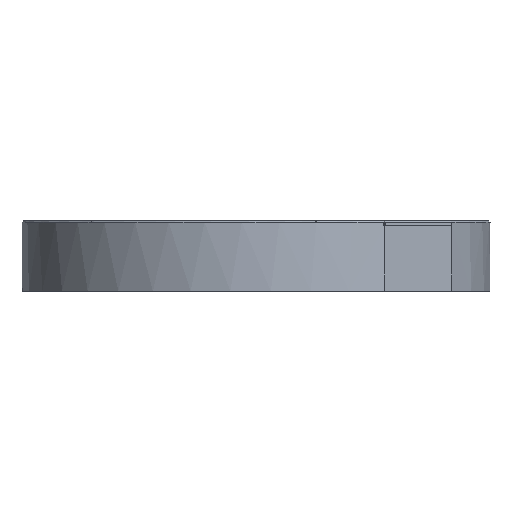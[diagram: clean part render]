
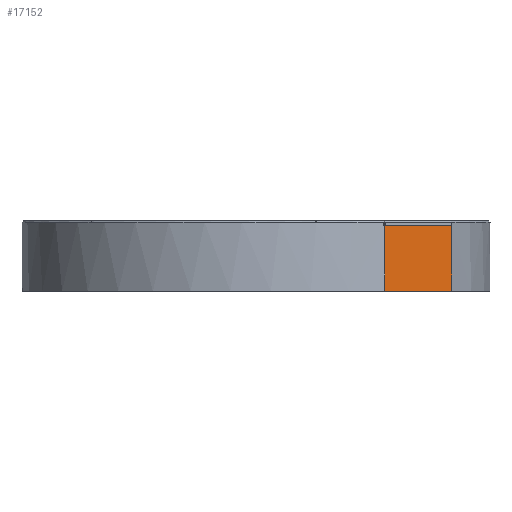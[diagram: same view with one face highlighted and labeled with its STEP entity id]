
A CAD part, front view. The second image highlights one B-rep face of the part: STEP entity #17152.
In plain terms, the highlighted planar face has unit normal (0.707, -0.707, 0).
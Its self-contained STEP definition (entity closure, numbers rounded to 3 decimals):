
#393=DIRECTION('',(-0.707,-0.707,0.));
#394=VECTOR('',#393,40.4);
#395=CARTESIAN_POINT('',(83.537,-54.969,-26.4));
#396=LINE('',#395,#394);
#2790=DIRECTION('',(0.707,0.707,0.));
#2791=VECTOR('',#2790,0.5);
#2792=CARTESIAN_POINT('',(83.183,-55.323,1.6));
#2793=LINE('',#2792,#2791);
#2844=DIRECTION('',(0.707,0.707,0.));
#2845=VECTOR('',#2844,0.5);
#2846=CARTESIAN_POINT('',(54.969,-83.537,1.6));
#2847=LINE('',#2846,#2845);
#6621=DIRECTION('',(-0.707,-0.707,0.));
#6622=VECTOR('',#6621,39.4);
#6623=CARTESIAN_POINT('',(83.183,-55.323,1.6));
#6624=LINE('',#6623,#6622);
#6625=DIRECTION('',(0.,0.,-1.));
#6626=VECTOR('',#6625,28.);
#6627=CARTESIAN_POINT('',(83.537,-54.969,1.6));
#6628=LINE('',#6627,#6626);
#6629=DIRECTION('',(0.,0.,1.));
#6630=VECTOR('',#6629,28.);
#6631=CARTESIAN_POINT('',(54.969,-83.537,-26.4));
#6632=LINE('',#6631,#6630);
#7102=CARTESIAN_POINT('',(83.537,-54.969,-26.4));
#7103=CARTESIAN_POINT('',(54.969,-83.537,-26.4));
#7104=VERTEX_POINT('',#7102);
#7105=VERTEX_POINT('',#7103);
#7160=CARTESIAN_POINT('',(83.537,-54.969,1.6));
#7161=VERTEX_POINT('',#7160);
#7163=CARTESIAN_POINT('',(54.969,-83.537,1.6));
#7165=VERTEX_POINT('',#7163);
#8470=CARTESIAN_POINT('',(83.183,-55.323,1.6));
#8471=CARTESIAN_POINT('',(55.323,-83.183,1.6));
#8472=VERTEX_POINT('',#8470);
#8473=VERTEX_POINT('',#8471);
#17139=CARTESIAN_POINT('',(83.537,-54.969,-24.4));
#17140=DIRECTION('',(-0.707,0.707,0.));
#17141=DIRECTION('',(-0.707,-0.707,0.));
#17142=AXIS2_PLACEMENT_3D('',#17139,#17140,#17141);
#17143=PLANE('',#17142);
#17144=ORIENTED_EDGE('',*,*,#13016,.F.);
#17145=ORIENTED_EDGE('',*,*,#12386,.T.);
#17146=ORIENTED_EDGE('',*,*,#12486,.T.);
#17147=ORIENTED_EDGE('',*,*,#9152,.T.);
#17148=ORIENTED_EDGE('',*,*,#12483,.T.);
#17149=ORIENTED_EDGE('',*,*,#12417,.T.);
#17150=EDGE_LOOP('',(#17144,#17145,#17146,#17147,#17148,#17149));
#17151=FACE_OUTER_BOUND('',#17150,.F.);
#17152=ADVANCED_FACE('',(#17151),#17143,.F.);
#9152=EDGE_CURVE('',#7104,#7105,#396,.T.);
#12386=EDGE_CURVE('',#8472,#7161,#2793,.T.);
#12417=EDGE_CURVE('',#7165,#8473,#2847,.T.);
#12483=EDGE_CURVE('',#7105,#7165,#6632,.T.);
#12486=EDGE_CURVE('',#7161,#7104,#6628,.T.);
#13016=EDGE_CURVE('',#8472,#8473,#6624,.T.);
